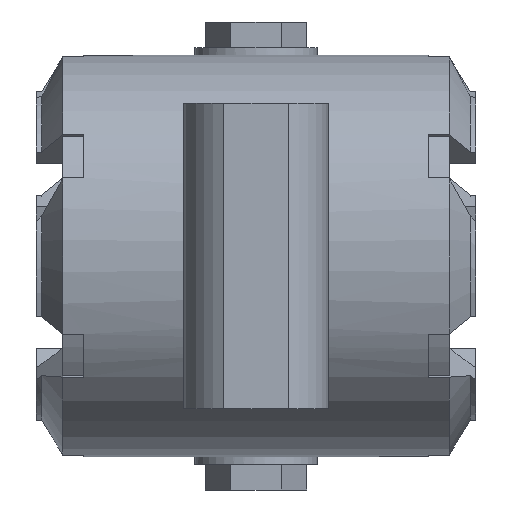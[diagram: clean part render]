
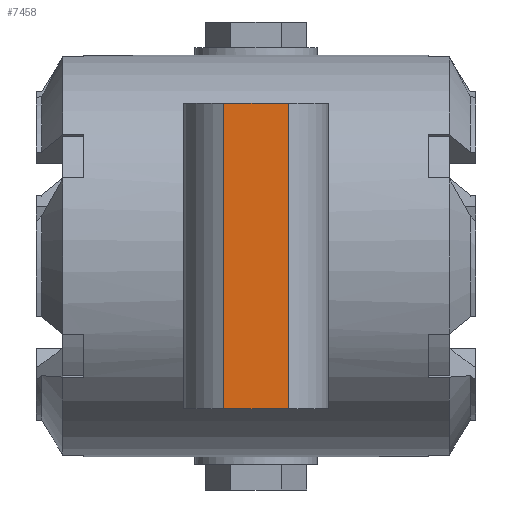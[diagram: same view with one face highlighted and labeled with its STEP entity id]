
A CAD part, front view. The second image highlights one B-rep face of the part: STEP entity #7458.
In plain terms, the highlighted planar face has unit normal (0, -1, 0).
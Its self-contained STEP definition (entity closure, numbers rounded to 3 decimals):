
#3035=LINE('',#43945,#5824);
#3037=LINE('',#43956,#5826);
#3039=LINE('',#43964,#5828);
#3041=LINE('',#43967,#5830);
#5824=VECTOR('',#31475,1.);
#5826=VECTOR('',#31485,1.);
#5828=VECTOR('',#31493,1.);
#5830=VECTOR('',#31497,1.);
#7458=ADVANCED_FACE('',(#9449),#8192,.F.);
#8192=PLANE('',#26755);
#9449=FACE_OUTER_BOUND('',#10912,.T.);
#10912=EDGE_LOOP('',(#18075,#18076,#18077,#18078));
#18075=ORIENTED_EDGE('',*,*,#24075,.F.);
#18076=ORIENTED_EDGE('',*,*,#24079,.F.);
#18077=ORIENTED_EDGE('',*,*,#24070,.T.);
#18078=ORIENTED_EDGE('',*,*,#24081,.F.);
#20488=VERTEX_POINT('',#43943);
#20490=VERTEX_POINT('',#43946);
#20493=VERTEX_POINT('',#43954);
#20495=VERTEX_POINT('',#43957);
#24070=EDGE_CURVE('',#20490,#20488,#3035,.T.);
#24075=EDGE_CURVE('',#20493,#20495,#3037,.T.);
#24079=EDGE_CURVE('',#20490,#20493,#3039,.T.);
#24081=EDGE_CURVE('',#20495,#20488,#3041,.T.);
#26755=AXIS2_PLACEMENT_3D('',#45346,#31567,#31568);
#31475=DIRECTION('',(1.,0.,0.));
#31485=DIRECTION('',(1.,0.,0.));
#31493=DIRECTION('',(0.,0.,1.));
#31497=DIRECTION('',(0.,0.,-1.));
#31567=DIRECTION('',(0.,1.,0.));
#31568=DIRECTION('',(0.,0.,-1.));
#43943=CARTESIAN_POINT('',(8.501,-25.5,-40.));
#43945=CARTESIAN_POINT('',(0.016,-25.5,-40.));
#43946=CARTESIAN_POINT('',(-8.47,-25.5,-40.));
#43954=CARTESIAN_POINT('',(-8.47,-25.5,40.));
#43956=CARTESIAN_POINT('',(0.016,-25.5,40.));
#43957=CARTESIAN_POINT('',(8.501,-25.5,40.));
#43964=CARTESIAN_POINT('',(-8.47,-25.5,-40.));
#43967=CARTESIAN_POINT('',(8.501,-25.5,56.5));
#45346=CARTESIAN_POINT('',(0.016,-25.5,0.));
